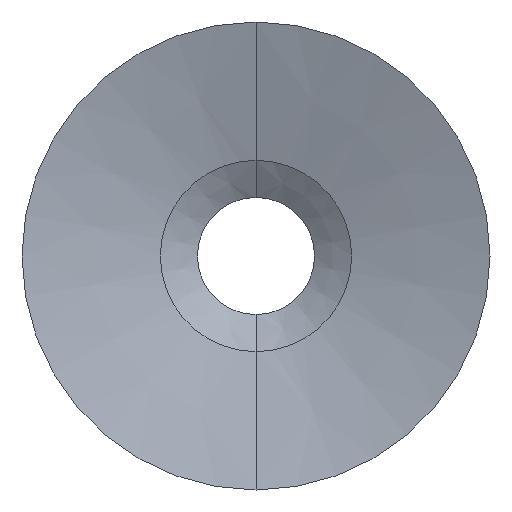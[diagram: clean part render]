
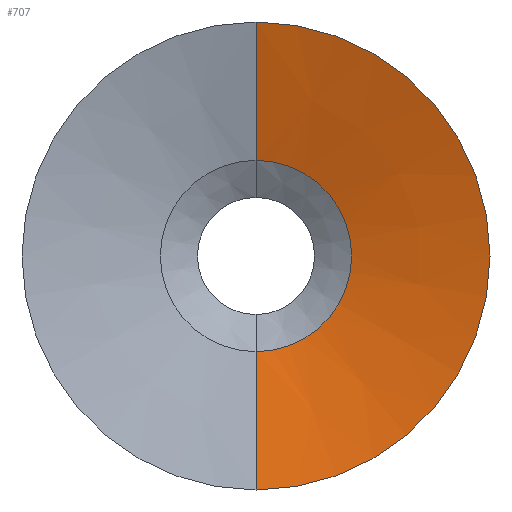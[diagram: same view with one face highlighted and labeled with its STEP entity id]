
A CAD part, left-side view. The second image highlights one B-rep face of the part: STEP entity #707.
In plain terms, the highlighted conical face has half-angle 74.257 degrees and reference radius 2.453 mm.
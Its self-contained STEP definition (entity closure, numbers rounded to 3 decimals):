
#49 = VECTOR ( 'NONE', #452, 1000. ) ;
#97 = VERTEX_POINT ( 'NONE', #665 ) ;
#109 = ORIENTED_EDGE ( 'NONE', *, *, #219, .F. ) ;
#137 = LINE ( 'NONE', #1248, #540 ) ;
#163 = CARTESIAN_POINT ( 'NONE',  ( 1., 0., 2.453 ) ) ;
#177 = VERTEX_POINT ( 'NONE', #980 ) ;
#179 = AXIS2_PLACEMENT_3D ( 'NONE', #1255, #1262, #1270 ) ;
#198 = EDGE_CURVE ( 'NONE', #177, #97, #941, .T. ) ;
#207 = DIRECTION ( 'NONE',  ( -1., 0., 0. ) ) ;
#212 = FACE_OUTER_BOUND ( 'NONE', #503, .T. ) ;
#219 = EDGE_CURVE ( 'NONE', #816, #97, #137, .T. ) ;
#223 = AXIS2_PLACEMENT_3D ( 'NONE', #1022, #790, #1039 ) ;
#260 = CARTESIAN_POINT ( 'NONE',  ( 1., 0., 0. ) ) ;
#388 = DIRECTION ( 'NONE',  ( 0., 0., 1. ) ) ;
#426 = CARTESIAN_POINT ( 'NONE',  ( 1., 0., -2.453 ) ) ;
#428 = CARTESIAN_POINT ( 'NONE',  ( 1., 0., -2.453 ) ) ;
#452 = DIRECTION ( 'NONE',  ( -0.271, 0., -0.962 ) ) ;
#503 = EDGE_LOOP ( 'NONE', ( #1145, #844, #1207, #109 ) ) ;
#540 = VECTOR ( 'NONE', #1147, 1000. ) ;
#580 = EDGE_CURVE ( 'NONE', #1287, #816, #588, .T. ) ;
#588 = CIRCLE ( 'NONE', #1219, 2.453 ) ;
#607 = LINE ( 'NONE', #428, #49 ) ;
#665 = CARTESIAN_POINT ( 'NONE',  ( 0., 0., 6. ) ) ;
#707 = ADVANCED_FACE ( 'NONE', ( #212 ), #1115, .F. ) ;
#790 = DIRECTION ( 'NONE',  ( -1., 0., 0. ) ) ;
#816 = VERTEX_POINT ( 'NONE', #163 ) ;
#844 = ORIENTED_EDGE ( 'NONE', *, *, #1295, .T. ) ;
#941 = CIRCLE ( 'NONE', #179, 6. ) ;
#980 = CARTESIAN_POINT ( 'NONE',  ( 0., 0., -6. ) ) ;
#1022 = CARTESIAN_POINT ( 'NONE',  ( 1., 0., 0. ) ) ;
#1039 = DIRECTION ( 'NONE',  ( 0., 0., 1. ) ) ;
#1115 = CONICAL_SURFACE ( 'NONE', #223, 2.453, 1.296 ) ;
#1145 = ORIENTED_EDGE ( 'NONE', *, *, #580, .F. ) ;
#1147 = DIRECTION ( 'NONE',  ( -0.271, 0., 0.962 ) ) ;
#1207 = ORIENTED_EDGE ( 'NONE', *, *, #198, .T. ) ;
#1219 = AXIS2_PLACEMENT_3D ( 'NONE', #260, #207, #388 ) ;
#1248 = CARTESIAN_POINT ( 'NONE',  ( 1., 0., 2.453 ) ) ;
#1255 = CARTESIAN_POINT ( 'NONE',  ( 0., 0., 0. ) ) ;
#1262 = DIRECTION ( 'NONE',  ( -1., 0., 0. ) ) ;
#1270 = DIRECTION ( 'NONE',  ( 0., 0., 1. ) ) ;
#1287 = VERTEX_POINT ( 'NONE', #426 ) ;
#1295 = EDGE_CURVE ( 'NONE', #1287, #177, #607, .T. ) ;
